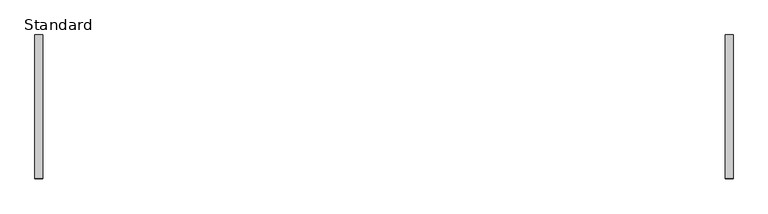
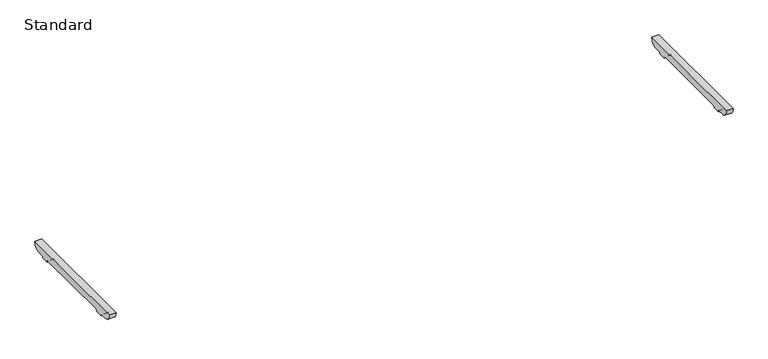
"""IFC4 building model written with IfcOpenShell, lengths in millimetres: furniture geometry, BDG_BossDesign_Tbls_AgentTables4Legs_Nested : Standard."""

import ifcopenshell
import ifcopenshell.guid

model = None  # the IFC model being written
_history = None  # IfcOwnerHistory: only IFC2X3 demands one
_inside = {}  # id of a spatial element -> (the spatial element, [elements in it])
_under = {}  # id of a project, library or spatial element -> (it, [spatial elements below it])
_declared = {}  # id of a project -> (the project, [libraries it declares])
_typed = {}  # id of a type object -> (the type object, [elements of that type])
_made_of = {}  # id of a material, layer set ... -> (it, [elements and type objects made of it])


def new_model(schema):
    """Start an empty IFC model of exactly this schema.

    Asked for "IFC4X3", IfcOpenShell would pick the latest addendum, in which some entities
    have other attributes; the version numbers below select the first issue.
    IFC2X3 requires an IfcOwnerHistory on every rooted entity: one is made here for all.
    """
    global model, _history
    if schema == "IFC4X3":
        model = ifcopenshell.file(schema_version=(4, 3, 0, 0))
    else:
        model = ifcopenshell.file(schema=schema)
    _inside.clear()
    _under.clear()
    _declared.clear()
    _typed.clear()
    _made_of.clear()
    _history = None
    if model.schema == "IFC2X3":
        org = make("IfcOrganization", Name="unknown")
        user = make(
            "IfcPersonAndOrganization",
            ThePerson=make("IfcPerson", FamilyName="unknown"),
            TheOrganization=org,
        )
        app = make(
            "IfcApplication",
            ApplicationDeveloper=org,
            Version="unknown",
            ApplicationFullName="unknown",
            ApplicationIdentifier="unknown",
        )
        _history = make(
            "IfcOwnerHistory",
            OwningUser=user,
            OwningApplication=app,
            ChangeAction="ADDED",
            CreationDate=0,
        )
    return model


def make(cls, **values):
    """One entity of the class cls with the attributes given. An attribute that is None is left unset."""
    return model.create_entity(
        cls, **{name: value for name, value in values.items() if value is not None}
    )


def rooted(cls, **values):
    """An entity with a GlobalId (a new one), such as an element, a storey or a relation."""
    return make(cls, GlobalId=ifcopenshell.guid.new(), OwnerHistory=_history, **values)


def si_unit(unit_type, name, prefix=None):
    """IfcSIUnit, for example si_unit("LENGTHUNIT", "METRE", prefix="MILLI")."""
    return make("IfcSIUnit", UnitType=unit_type, Prefix=prefix, Name=name)


def assignment(units):
    """IfcUnitAssignment: the units of a project."""
    return None if units is None else make("IfcUnitAssignment", Units=units)


def point(xyz):
    """IfcCartesianPoint."""
    return None if xyz is None else make("IfcCartesianPoint", Coordinates=xyz)


def direction(xyz):
    """IfcDirection."""
    return None if xyz is None else make("IfcDirection", DirectionRatios=xyz)


def frame(location, z_axis=None, x_axis=None):
    """IfcAxis2Placement3D, a coordinate frame: its origin and axes. An axis left out is left unset."""
    return make(
        "IfcAxis2Placement3D",
        Location=point(location),
        Axis=direction(z_axis),
        RefDirection=direction(x_axis),
    )


def frame_2d(location, x_axis=None):
    """IfcAxis2Placement2D, a coordinate frame in the plane: its origin and x axis."""
    return make(
        "IfcAxis2Placement2D", Location=point(location), RefDirection=direction(x_axis)
    )


def origin():
    """The frame at (0, 0, 0) with its axes left unset."""
    return frame((0.0, 0.0, 0.0))


def place(relative_to, where):
    """IfcLocalPlacement: puts the frame where relative to a parent placement (None: the world)."""
    return make(
        "IfcLocalPlacement", PlacementRelTo=relative_to, RelativePlacement=where
    )


def context(
    kind, dimensions, precision=None, world=None, true_north=None, identifier=None
):
    """IfcGeometricRepresentationContext, for example the 3D "Model" context."""
    return make(
        "IfcGeometricRepresentationContext",
        ContextIdentifier=identifier,
        ContextType=kind,
        CoordinateSpaceDimension=dimensions,
        Precision=precision,
        WorldCoordinateSystem=world,
        TrueNorth=true_north,
    )


def project(units=None, contexts=None):
    """IfcProject with its units and contexts."""
    return rooted(
        "IfcProject",
        Name="project",
        RepresentationContexts=contexts,
        UnitsInContext=assignment(units),
    )


def spatial(cls, under=None, at=None, **own):
    """A site, building, storey or space (cls), placed at a placement, below another one or the project."""
    s = rooted(cls, ObjectPlacement=at, **own)
    if under is not None:
        _under.setdefault(under.id(), (under, []))[1].append(s)
    return s


def polyline(points):
    """IfcPolyline through the points."""
    return make("IfcPolyline", Points=[point(p) for p in points])


def circle_curve(where, radius):
    """IfcCircle in the frame where."""
    return make("IfcCircle", Position=where, Radius=radius)


def trimmed(basis, trim1, trim2, sense, master):
    """IfcTrimmedCurve: the piece of a basis curve between two trims."""
    return make(
        "IfcTrimmedCurve",
        BasisCurve=basis,
        Trim1=trim1,
        Trim2=trim2,
        SenseAgreement=sense,
        MasterRepresentation=master,
    )


def segment(curve, same_sense, transition):
    """IfcCompositeCurveSegment."""
    return make(
        "IfcCompositeCurveSegment",
        Transition=transition,
        SameSense=same_sense,
        ParentCurve=curve,
    )


def composite_curve(segments, self_intersect=None):
    """IfcCompositeCurve: segments joined end to end."""
    return make("IfcCompositeCurve", Segments=segments, SelfIntersect=self_intersect)


def outline(outer, holes=None, kind="AREA"):
    """IfcArbitraryClosedProfileDef: a profile drawn as a closed curve; with holes, ...WithVoids."""
    if holes is None:
        return make("IfcArbitraryClosedProfileDef", ProfileType=kind, OuterCurve=outer)
    return make(
        "IfcArbitraryProfileDefWithVoids",
        ProfileType=kind,
        OuterCurve=outer,
        InnerCurves=holes,
    )


def extrude(swept, where, along, depth):
    """IfcExtrudedAreaSolid: the profile swept, set in the frame where, extruded along a direction by depth."""
    return make(
        "IfcExtrudedAreaSolid",
        SweptArea=swept,
        Position=where,
        ExtrudedDirection=direction(along),
        Depth=depth,
    )


def shape(context_of_items, identifier, shape_type, items):
    """IfcShapeRepresentation: the items that make up one representation, for example the "Body"."""
    return make(
        "IfcShapeRepresentation",
        ContextOfItems=context_of_items,
        RepresentationIdentifier=identifier,
        RepresentationType=shape_type,
        Items=items,
    )


def source(mapping_origin, context_of_items, identifier, shape_type, items):
    """IfcRepresentationMap: a shape defined once, which mapped items show again and again."""
    return make(
        "IfcRepresentationMap",
        MappingOrigin=mapping_origin,
        MappedRepresentation=shape(context_of_items, identifier, shape_type, items),
    )


def transform(
    local_origin,
    x_axis=None,
    y_axis=None,
    z_axis=None,
    scale=None,
    scale2=None,
    scale3=None,
    uniform=True,
):
    """IfcCartesianTransformationOperator3D, or its non-uniform kind. x_axis, y_axis, z_axis: its Axis1, 2, 3."""
    if uniform:
        return make(
            "IfcCartesianTransformationOperator3D",
            Axis1=direction(x_axis),
            Axis2=direction(y_axis),
            LocalOrigin=point(local_origin),
            Scale=scale,
            Axis3=direction(z_axis),
        )
    return make(
        "IfcCartesianTransformationOperator3DnonUniform",
        Axis1=direction(x_axis),
        Axis2=direction(y_axis),
        LocalOrigin=point(local_origin),
        Scale=scale,
        Axis3=direction(z_axis),
        Scale2=scale2,
        Scale3=scale3,
    )


def mapped(mapping_source, mapping_target):
    """IfcMappedItem: shows the shape of a source again, moved by a transform."""
    return make(
        "IfcMappedItem", MappingSource=mapping_source, MappingTarget=mapping_target
    )


def made_of(thing, what):
    """Note that an element or type object is made of a material, layer set ...; save() writes the relation."""
    if what is not None:
        _made_of.setdefault(what.id(), (what, []))[1].append(thing)
    return thing


def element(
    cls,
    number,
    at=None,
    inside=None,
    cuts=None,
    type_object=None,
    material=None,
    context=None,
    identifier="Body",
    shape_type=None,
    held_by="IfcProductDefinitionShape",
    body=None,
    shapes=None,
    **own,
):
    """One element of the class cls, such as IfcWall. Its Tag is "e" and its number.

    at: its placement. inside: the storey or other place that contains it. cuts: it is an
    opening in that element (IfcRelVoidsElement). A single representation is given by context,
    identifier, shape_type and body (its items); several are given by shapes. held_by: the class
    of the entity that holds the representations. save() writes the other relations.
    """
    e = rooted(cls, Tag="e%d" % number, ObjectPlacement=at, **own)
    if body is not None:
        shapes = [shape(context, identifier, shape_type, body)]
    if shapes is not None:
        e.Representation = make(held_by, Representations=shapes)
    if inside is not None:
        _inside.setdefault(inside.id(), (inside, []))[1].append(e)
    if cuts is not None:
        rooted(
            "IfcRelVoidsElement", RelatingBuildingElement=cuts, RelatedOpeningElement=e
        )
    if type_object is not None:
        _typed.setdefault(type_object.id(), (type_object, []))[1].append(e)
    return made_of(e, material)


def aggregate(whole, parts):
    """IfcRelAggregates: a whole, such as a stair, and the parts it consists of."""
    return rooted("IfcRelAggregates", RelatingObject=whole, RelatedObjects=parts)


def save(model, path):
    """Write the relations noted so far, then the file.

    IfcRelAggregates (storeys below a building ...), IfcRelContainedInSpatialStructure (elements
    in a storey), IfcRelDefinesByType, IfcRelAssociatesMaterial and IfcRelDeclares: one each for
    every whole, place, type object, material and project.
    """
    for whole, parts in _under.values():
        aggregate(whole, parts)
    for where, things in _inside.values():
        rooted(
            "IfcRelContainedInSpatialStructure",
            RelatedElements=things,
            RelatingStructure=where,
        )
    for kind, things in _typed.values():
        rooted("IfcRelDefinesByType", RelatedObjects=things, RelatingType=kind)
    for what, things in _made_of.values():
        rooted("IfcRelAssociatesMaterial", RelatedObjects=things, RelatingMaterial=what)
    for by, libraries in _declared.values():
        rooted("IfcRelDeclares", RelatingContext=by, RelatedDefinitions=libraries)
    model.write(path)


def standard_100b0362(model_context):
    return source(origin(), model_context, "Body", "SweptSolid", [
        extrude(outline(composite_curve([segment(polyline([(380.5450184, 672.0), (342.7000122, 672.0)]), True, "CONTINUOUS"), segment(trimmed(circle_curve(frame_2d((342.7000122, 660.0)), 12.0), [point((342.7000122, 672.0))], [point((330.7000122, 660.0))], True, "CARTESIAN"), True, "CONTINUOUS"), segment(polyline([(330.7000122, 660.0), (285.7000122, 660.0)]), True, "CONTINUOUS"), segment(trimmed(circle_curve(frame_2d((273.7000122, 660.0)), 12.0), [point((285.7000122, 660.0))], [point((273.7000122, 672.0))], True, "CARTESIAN"), True, "CONTINUOUS"), segment(polyline([(273.7000122, 672.0), (-273.7000122, 672.0)]), True, "CONTINUOUS"), segment(trimmed(circle_curve(frame_2d((-273.7000122, 660.0)), 12.0), [point((-273.7000122, 672.0))], [point((-285.7000122, 660.0))], True, "CARTESIAN"), True, "CONTINUOUS"), segment(polyline([(-285.7000122, 660.0), (-330.7000122, 660.0)]), True, "CONTINUOUS"), segment(trimmed(circle_curve(frame_2d((-342.7000122, 660.0)), 12.0), [point((-330.7000122, 660.0))], [point((-342.7000122, 672.0))], True, "CARTESIAN"), True, "CONTINUOUS"), segment(polyline([(-342.7000122, 672.0), (-380.5450184, 672.0)]), True, "CONTINUOUS"), segment(trimmed(circle_curve(frame_2d((-378.2220439, 716.5514119)), 44.6119324), [point((-380.5450184, 672.0))], [point((-422.5, 722.0))], False, "CARTESIAN"), True, "CONTINUOUS"), segment(polyline([(-422.5, 722.0), (422.5, 722.0)]), True, "CONTINUOUS"), segment(trimmed(circle_curve(frame_2d((378.2220439, 716.5514119)), 44.6119324), [point((422.5, 722.0))], [point((380.5450184, 672.0))], False, "CARTESIAN"), True, "CONTINUOUS")], self_intersect=False)), frame((2005.0, 0.0, 0.0), z_axis=(1.0, 0.0, 0.0), x_axis=(0.0, 1.0, 0.0)), (0.0, 0.0, 1.0), 45.0),
        extrude(outline(composite_curve([segment(polyline([(380.5450184, 672.0), (342.7000122, 672.0)]), True, "CONTINUOUS"), segment(trimmed(circle_curve(frame_2d((342.7000122, 660.0)), 12.0), [point((342.7000122, 672.0))], [point((330.7000122, 660.0))], True, "CARTESIAN"), True, "CONTINUOUS"), segment(polyline([(330.7000122, 660.0), (285.7000122, 660.0)]), True, "CONTINUOUS"), segment(trimmed(circle_curve(frame_2d((273.7000122, 660.0)), 12.0), [point((285.7000122, 660.0))], [point((273.7000122, 672.0))], True, "CARTESIAN"), True, "CONTINUOUS"), segment(polyline([(273.7000122, 672.0), (-273.7000122, 672.0)]), True, "CONTINUOUS"), segment(trimmed(circle_curve(frame_2d((-273.7000122, 660.0)), 12.0), [point((-273.7000122, 672.0))], [point((-285.7000122, 660.0))], True, "CARTESIAN"), True, "CONTINUOUS"), segment(polyline([(-285.7000122, 660.0), (-330.7000122, 660.0)]), True, "CONTINUOUS"), segment(trimmed(circle_curve(frame_2d((-342.7000122, 660.0)), 12.0), [point((-330.7000122, 660.0))], [point((-342.7000122, 672.0))], True, "CARTESIAN"), True, "CONTINUOUS"), segment(polyline([(-342.7000122, 672.0), (-380.5450184, 672.0)]), True, "CONTINUOUS"), segment(trimmed(circle_curve(frame_2d((-378.2220439, 716.5514119)), 44.6119324), [point((-380.5450184, 672.0))], [point((-422.5, 722.0))], False, "CARTESIAN"), True, "CONTINUOUS"), segment(polyline([(-422.5, 722.0), (422.5, 722.0)]), True, "CONTINUOUS"), segment(trimmed(circle_curve(frame_2d((378.2220439, 716.5514119)), 44.6119324), [point((422.5, 722.0))], [point((380.5450184, 672.0))], False, "CARTESIAN"), True, "CONTINUOUS")], self_intersect=False)), frame((-2050.0, 0.0, 0.0), z_axis=(1.0, 0.0, 0.0), x_axis=(0.0, 1.0, 0.0)), (0.0, 0.0, 1.0), 45.0),
    ])


if __name__ == "__main__":
    model = new_model("IFC4")
    model_context = context("Model", 3, world=origin())
    ifc_project = project(units=[si_unit("LENGTHUNIT", "METRE", prefix="MILLI")], contexts=[model_context])
    site = spatial("IfcSite", under=ifc_project)
    building = spatial("IfcBuilding", under=site)
    placement = place(None, origin())
    standard_shape = standard_100b0362(model_context)
    element("IfcFurniture", 1, ObjectType="BDG_BossDesign_Tbls_AgentTables4Legs_Nested : Standard", at=placement, inside=building, context=model_context, shape_type="MappedRepresentation", body=[
        mapped(standard_shape, transform((0.0, 0.0, 0.0), x_axis=(1.0, 0.0, 0.0), y_axis=(0.0, 1.0, 0.0), z_axis=(0.0, 0.0, 1.0))),
    ])
    save(model, "model.ifc")
